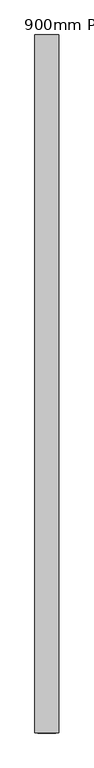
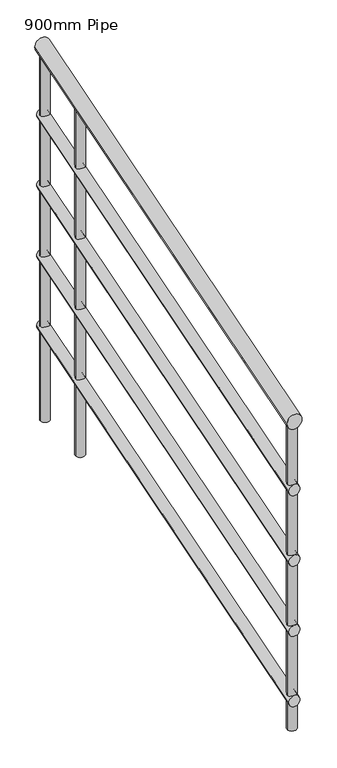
"""IFC4 building model written with IfcOpenShell, lengths in millimetres: railing geometry, 900mm Pipe."""

from ifc_helpers import new_model, si_unit, frame, origin, place, context, project, spatial, circle_curve, ellipse_curve, source, transform, mapped, element, save
from ifc_brep_helpers import plane_surface, cylinder_surface, advanced_brep


def railing_900mm_pipe_61c9bbe0(model_context):
    return source(origin(), model_context, "Body", "AdvancedBrep", [
        advanced_brep(
        [(978525.4368874, -2958.8436153, 9458.386247), (978485.4368874, -2958.8436153, 9458.386247), (978525.4368874, -1782.0220713, 9816.9744823), (978485.4368874, -1782.0220713, 9816.9744823)],
        [
            (0, 1, ellipse_curve(frame((978505.4368874, -2958.8436153, 9458.386247), z_axis=(0.0, -1.0, 0.0), x_axis=(0.0, 0.0, -1.0)), 20.9078706, 20.0)),
            (1, 0, ellipse_curve(frame((978505.4368874, -2958.8436153, 9458.386247), z_axis=(0.0, -1.0, 0.0), x_axis=(0.0, 0.0, -1.0)), 20.9078706, 20.0)),
            (2, 3, ellipse_curve(frame((978505.4368874, -1782.0220713, 9816.9744823), z_axis=(0.0, 1.0, 0.0), x_axis=(0.0, 0.0, -1.0)), 20.9078706, 20.0)),
            (3, 2, ellipse_curve(frame((978505.4368874, -1782.0220713, 9816.9744823), z_axis=(0.0, 1.0, 0.0), x_axis=(0.0, 0.0, -1.0)), 20.9078706, 20.0)),
            (1, 3),
            (2, 0),
        ],
        [
            plane_surface(frame((978505.4368874, -2958.8436153, 9479.2941176), z_axis=(0.0, -1.0, 0.0), x_axis=(0.0, 0.0, 1.0))),
            plane_surface(frame((978505.4368874, -1782.0220713, 9837.8823529), z_axis=(0.0, 1.0, 0.0), x_axis=(0.0, 0.0, 1.0))),
            cylinder_surface(frame((978505.4368874, -2953.0140575, 9460.1625663), z_axis=(0.0, -0.9565775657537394, -0.291477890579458), x_axis=(-1.0, 0.0, 0.0)), 20.0),
        ],
        [
            (0, [[1, 2]]),
            (1, [[3, 4]]),
            (2, [[-2, 5, -3, 6]]),
            (2, [[-1, -6, -4, -5]]),
        ],
    ),
        advanced_brep(
        [(978520.4368874, -2958.8436153, 9263.6132147), (978490.4368874, -2958.8436153, 9263.6132147), (978520.4368874, -1782.0220713, 9622.20145), (978490.4368874, -1782.0220713, 9622.20145)],
        [
            (0, 1, ellipse_curve(frame((978505.4368874, -2958.8436153, 9263.6132147), z_axis=(0.0, -1.0, 0.0), x_axis=(0.0, 0.0, -1.0)), 15.680903, 15.0)),
            (1, 0, ellipse_curve(frame((978505.4368874, -2958.8436153, 9263.6132147), z_axis=(0.0, -1.0, 0.0), x_axis=(0.0, 0.0, -1.0)), 15.680903, 15.0)),
            (2, 3, ellipse_curve(frame((978505.4368874, -1782.0220713, 9622.20145), z_axis=(0.0, 1.0, 0.0), x_axis=(0.0, 0.0, -1.0)), 15.680903, 15.0)),
            (3, 2, ellipse_curve(frame((978505.4368874, -1782.0220713, 9622.20145), z_axis=(0.0, 1.0, 0.0), x_axis=(0.0, 0.0, -1.0)), 15.680903, 15.0)),
            (0, 2),
            (3, 1),
        ],
        [
            plane_surface(frame((978505.4368874, -2958.8436153, 9279.2941176), z_axis=(0.0, -1.0, 0.0), x_axis=(0.0, 0.0, 1.0))),
            plane_surface(frame((978505.4368874, -1782.0220713, 9637.8823529), z_axis=(0.0, 1.0, 0.0), x_axis=(0.0, 0.0, 1.0))),
            cylinder_surface(frame((978505.4368874, -2954.4714469, 9264.9454542), z_axis=(0.0, -0.9565775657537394, -0.291477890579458), x_axis=(-1.0, 0.0, 0.0)), 15.0),
        ],
        [
            (0, [[1, 2]]),
            (1, [[3, 4]]),
            (2, [[-1, 5, -4, 6]]),
            (2, [[-2, -6, -3, -5]]),
        ],
    ),
        advanced_brep(
        [(978520.4368874, -2958.8436153, 9063.6132147), (978490.4368874, -2958.8436153, 9063.6132147), (978520.4368874, -1782.0220713, 9422.20145), (978490.4368874, -1782.0220713, 9422.20145)],
        [
            (0, 1, ellipse_curve(frame((978505.4368874, -2958.8436153, 9063.6132147), z_axis=(0.0, -1.0, 0.0), x_axis=(0.0, 0.0, -1.0)), 15.680903, 15.0)),
            (1, 0, ellipse_curve(frame((978505.4368874, -2958.8436153, 9063.6132147), z_axis=(0.0, -1.0, 0.0), x_axis=(0.0, 0.0, -1.0)), 15.680903, 15.0)),
            (2, 3, ellipse_curve(frame((978505.4368874, -1782.0220713, 9422.20145), z_axis=(0.0, 1.0, 0.0), x_axis=(0.0, 0.0, -1.0)), 15.680903, 15.0)),
            (3, 2, ellipse_curve(frame((978505.4368874, -1782.0220713, 9422.20145), z_axis=(0.0, 1.0, 0.0), x_axis=(0.0, 0.0, -1.0)), 15.680903, 15.0)),
            (0, 2),
            (3, 1),
        ],
        [
            plane_surface(frame((978505.4368874, -2958.8436153, 9079.2941176), z_axis=(0.0, -1.0, 0.0), x_axis=(0.0, 0.0, 1.0))),
            plane_surface(frame((978505.4368874, -1782.0220713, 9437.8823529), z_axis=(0.0, 1.0, 0.0), x_axis=(0.0, 0.0, 1.0))),
            cylinder_surface(frame((978505.4368874, -2954.4714469, 9064.9454542), z_axis=(0.0, -0.9565775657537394, -0.291477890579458), x_axis=(-1.0, 0.0, 0.0)), 15.0),
        ],
        [
            (0, [[1, 2]]),
            (1, [[3, 4]]),
            (2, [[-1, 5, -4, 6]]),
            (2, [[-2, -6, -3, -5]]),
        ],
    ),
        advanced_brep(
        [(978520.4368874, -2958.8436153, 8863.6132147), (978490.4368874, -2958.8436153, 8863.6132147), (978520.4368874, -1782.0220713, 9222.20145), (978490.4368874, -1782.0220713, 9222.20145)],
        [
            (0, 1, ellipse_curve(frame((978505.4368874, -2958.8436153, 8863.6132147), z_axis=(0.0, -1.0, 0.0), x_axis=(0.0, 0.0, -1.0)), 15.680903, 15.0)),
            (1, 0, ellipse_curve(frame((978505.4368874, -2958.8436153, 8863.6132147), z_axis=(0.0, -1.0, 0.0), x_axis=(0.0, 0.0, -1.0)), 15.680903, 15.0)),
            (2, 3, ellipse_curve(frame((978505.4368874, -1782.0220713, 9222.20145), z_axis=(0.0, 1.0, 0.0), x_axis=(0.0, 0.0, -1.0)), 15.680903, 15.0)),
            (3, 2, ellipse_curve(frame((978505.4368874, -1782.0220713, 9222.20145), z_axis=(0.0, 1.0, 0.0), x_axis=(0.0, 0.0, -1.0)), 15.680903, 15.0)),
            (0, 2),
            (3, 1),
        ],
        [
            plane_surface(frame((978505.4368874, -2958.8436153, 8879.2941176), z_axis=(0.0, -1.0, 0.0), x_axis=(0.0, 0.0, 1.0))),
            plane_surface(frame((978505.4368874, -1782.0220713, 9237.8823529), z_axis=(0.0, 1.0, 0.0), x_axis=(0.0, 0.0, 1.0))),
            cylinder_surface(frame((978505.4368874, -2954.4714469, 8864.9454542), z_axis=(0.0, -0.9565775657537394, -0.291477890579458), x_axis=(-1.0, 0.0, 0.0)), 15.0),
        ],
        [
            (0, [[1, 2]]),
            (1, [[3, 4]]),
            (2, [[-1, 5, -4, 6]]),
            (2, [[-2, -6, -3, -5]]),
        ],
    ),
        advanced_brep(
        [(978520.4368874, -2958.8436153, 8663.6132147), (978490.4368874, -2958.8436153, 8663.6132147), (978520.4368874, -1782.0220713, 9022.20145), (978490.4368874, -1782.0220713, 9022.20145)],
        [
            (0, 1, ellipse_curve(frame((978505.4368874, -2958.8436153, 8663.6132147), z_axis=(0.0, -1.0, 0.0), x_axis=(0.0, 0.0, -1.0)), 15.680903, 15.0)),
            (1, 0, ellipse_curve(frame((978505.4368874, -2958.8436153, 8663.6132147), z_axis=(0.0, -1.0, 0.0), x_axis=(0.0, 0.0, -1.0)), 15.680903, 15.0)),
            (2, 3, ellipse_curve(frame((978505.4368874, -1782.0220713, 9022.20145), z_axis=(0.0, 1.0, 0.0), x_axis=(0.0, 0.0, -1.0)), 15.680903, 15.0)),
            (3, 2, ellipse_curve(frame((978505.4368874, -1782.0220713, 9022.20145), z_axis=(0.0, 1.0, 0.0), x_axis=(0.0, 0.0, -1.0)), 15.680903, 15.0)),
            (0, 2),
            (3, 1),
        ],
        [
            plane_surface(frame((978505.4368874, -2958.8436153, 8679.2941176), z_axis=(0.0, -1.0, 0.0), x_axis=(0.0, 0.0, 1.0))),
            plane_surface(frame((978505.4368874, -1782.0220713, 9037.8823529), z_axis=(0.0, 1.0, 0.0), x_axis=(0.0, 0.0, 1.0))),
            cylinder_surface(frame((978505.4368874, -2954.4714469, 8664.9454542), z_axis=(0.0, -0.9565775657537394, -0.291477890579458), x_axis=(-1.0, 0.0, 0.0)), 15.0),
        ],
        [
            (0, [[1, 2]]),
            (1, [[3, 4]]),
            (2, [[-1, 5, -4, 6]]),
            (2, [[-2, -6, -3, -5]]),
        ],
    ),
        advanced_brep(
        [(978492.9368874, -1958.8436153, 9742.1874779), (978517.9368874, -1958.8436153, 9742.1874779), (978517.9368874, -1958.8436153, 8758.5882353), (978492.9368874, -1958.8436153, 8758.5882353)],
        [
            (0, 1, ellipse_curve(frame((978505.4368874, -1958.8436153, 9742.1874779), z_axis=(0.0, 0.2914778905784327, -0.9565775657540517), x_axis=(0.0, 0.9565775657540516, 0.29147789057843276)), 13.0674191, 12.5)),
            (1, 2),
            (2, 3, circle_curve(frame((978505.4368874, -1958.8436153, 8758.5882353), z_axis=(0.0, 0.0, 1.0), x_axis=(1.0, 0.0, 0.0)), 12.5)),
            (3, 0),
            (3, 2, circle_curve(frame((978505.4368874, -1958.8436153, 8758.5882353), z_axis=(0.0, 0.0, 1.0), x_axis=(1.0, 0.0, 0.0)), 12.5)),
            (1, 0, ellipse_curve(frame((978505.4368874, -1958.8436153, 9742.1874779), z_axis=(0.0, 0.2914778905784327, -0.9565775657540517), x_axis=(0.0, 0.9565775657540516, 0.29147789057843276)), 13.0674191, 12.5)),
        ],
        [
            cylinder_surface(frame((978505.4368874, -1958.8436153, 8658.5882353), z_axis=(0.0, 0.0, 1.0), x_axis=(1.0, 0.0, 0.0)), 12.5),
            plane_surface(frame((978530.4368874, -1933.8436153, 9749.8052054), z_axis=(0.0, -0.2914778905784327, 0.9565775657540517), x_axis=(-1.0, 0.0, 0.0))),
            plane_surface(frame((978530.4368874, -1983.8436153, 8758.5882353), z_axis=(0.0, 0.0, -1.0), x_axis=(-1.0, 0.0, 0.0))),
        ],
        [
            (0, [[1, 2, 3, 4]]),
            (0, [[5, -2, 6, -4]]),
            (1, [[-6, -1]]),
            (2, [[-5, -3]]),
        ],
    ),
        advanced_brep(
        [(978492.9368874, -1794.5220713, 9792.2577479), (978517.9368874, -1794.5220713, 9792.2577479), (978517.9368874, -1794.5220713, 8758.5882353), (978492.9368874, -1794.5220713, 8758.5882353)],
        [
            (0, 1, ellipse_curve(frame((978505.4368874, -1794.5220713, 9792.2577479), z_axis=(0.0, 0.2914778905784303, -0.9565775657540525), x_axis=(0.0, 0.9565775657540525, 0.2914778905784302)), 13.0674191, 12.5)),
            (1, 2),
            (2, 3, circle_curve(frame((978505.4368874, -1794.5220713, 8758.5882353), z_axis=(0.0, 0.0, 1.0), x_axis=(1.0, 0.0, 0.0)), 12.5)),
            (3, 0),
            (3, 2, circle_curve(frame((978505.4368874, -1794.5220713, 8758.5882353), z_axis=(0.0, 0.0, 1.0), x_axis=(1.0, 0.0, 0.0)), 12.5)),
            (1, 0, ellipse_curve(frame((978505.4368874, -1794.5220713, 9792.2577479), z_axis=(0.0, 0.2914778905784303, -0.9565775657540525), x_axis=(0.0, 0.9565775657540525, 0.2914778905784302)), 13.0674191, 12.5)),
        ],
        [
            cylinder_surface(frame((978505.4368874, -1794.5220713, 8658.5882353), z_axis=(0.0, 0.0, 1.0), x_axis=(1.0, 0.0, 0.0)), 12.5),
            plane_surface(frame((978530.4368874, -1769.5220713, 9799.8754754), z_axis=(0.0, -0.2914778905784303, 0.9565775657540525), x_axis=(-1.0, 0.0, 0.0))),
            plane_surface(frame((978530.4368874, -1819.5220713, 8758.5882353), z_axis=(0.0, 0.0, -1.0), x_axis=(-1.0, 0.0, 0.0))),
        ],
        [
            (0, [[1, 2, 3, 4]]),
            (0, [[5, -2, 6, -4]]),
            (1, [[-6, -1]]),
            (2, [[-5, -3]]),
        ],
    ),
        advanced_brep(
        [(978492.9368874, -2946.3436153, 9441.2872401), (978517.9368874, -2946.3436153, 9441.2872401), (978517.9368874, -2946.3436153, 8579.2941176), (978492.9368874, -2946.3436153, 8579.2941176)],
        [
            (0, 1, ellipse_curve(frame((978505.4368874, -2946.3436153, 9441.2872401), z_axis=(0.0, 0.2914778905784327, -0.9565775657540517), x_axis=(0.0, 0.9565775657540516, 0.29147789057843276)), 13.0674191, 12.5)),
            (1, 2),
            (2, 3, circle_curve(frame((978505.4368874, -2946.3436153, 8579.2941176), z_axis=(0.0, 0.0, 1.0), x_axis=(1.0, 0.0, 0.0)), 12.5)),
            (3, 0),
            (3, 2, circle_curve(frame((978505.4368874, -2946.3436153, 8579.2941176), z_axis=(0.0, 0.0, 1.0), x_axis=(1.0, 0.0, 0.0)), 12.5)),
            (1, 0, ellipse_curve(frame((978505.4368874, -2946.3436153, 9441.2872401), z_axis=(0.0, 0.2914778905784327, -0.9565775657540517), x_axis=(0.0, 0.9565775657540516, 0.29147789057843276)), 13.0674191, 12.5)),
        ],
        [
            cylinder_surface(frame((978505.4368874, -2946.3436153, 8479.2941176), z_axis=(0.0, 0.0, 1.0), x_axis=(1.0, 0.0, 0.0)), 12.5),
            plane_surface(frame((978530.4368874, -2921.3436153, 9448.9049677), z_axis=(0.0, -0.2914778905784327, 0.9565775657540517), x_axis=(-1.0, 0.0, 0.0))),
            plane_surface(frame((978530.4368874, -2971.3436153, 8579.2941176), z_axis=(0.0, 0.0, -1.0), x_axis=(-1.0, 0.0, 0.0))),
        ],
        [
            (0, [[1, 2, 3, 4]]),
            (0, [[5, -2, 6, -4]]),
            (1, [[-6, -1]]),
            (2, [[-5, -3]]),
        ],
    ),
    ])


if __name__ == "__main__":
    model = new_model("IFC4")
    model_context = context("Model", 3, world=origin())
    ifc_project = project(units=[si_unit("LENGTHUNIT", "METRE", prefix="MILLI")], contexts=[model_context])
    site = spatial("IfcSite", under=ifc_project)
    building = spatial("IfcBuilding", under=site)
    placement = place(None, origin())
    railing_900mm_pipe_shape = railing_900mm_pipe_61c9bbe0(model_context)
    element("IfcRailing", 1, ObjectType="900mm Pipe", at=placement, inside=building, context=model_context, shape_type="MappedRepresentation", body=[
        mapped(railing_900mm_pipe_shape, transform((0.0, 0.0, 0.0), x_axis=(1.0, 0.0, 0.0), y_axis=(0.0, 1.0, 0.0), z_axis=(0.0, 0.0, 1.0))),
    ])
    save(model, "model.ifc")
